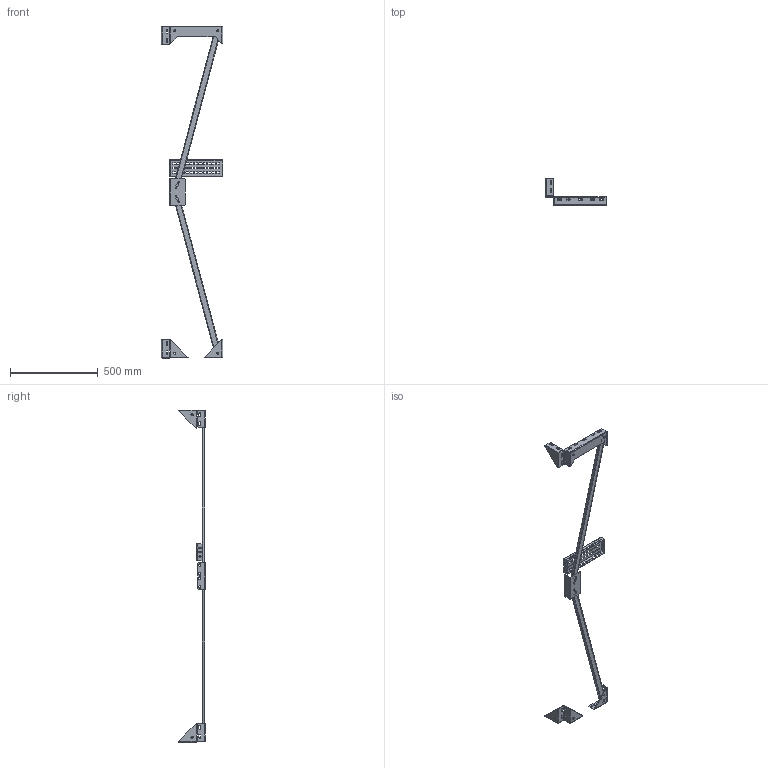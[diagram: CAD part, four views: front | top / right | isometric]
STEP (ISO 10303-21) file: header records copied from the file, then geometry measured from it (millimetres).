
FILE_DESCRIPTION (( 'STEP AP203' ), '1' );
FILE_NAME ('栫濄斁膰斀錼膷2000x400_p.STEP', '2018-07-25T11:26:24', ( '' ), ( '' ), 'SwSTEP 2.0', 'SolidWorks 2018', '' );
FILE_SCHEMA (( 'CONFIG_CONTROL_DESIGN' ));
Length unit declared in the file: millimetre
Products named in the file (2): 栫濄斁膰斀錼膷2000x400_p
Bounding box: 351.5 x 153.5 x 1894 mm (x, y, z)
Surface area: 656370.5 mm2 (no closed solid volume)
Topology: 0 solids, 13 shells, 737 faces, 2150 edges, 1392 vertices
Faces by surface type: plane 441, cylinder 267, bspline 29
Entity records: 27078 total; most frequent: CARTESIAN_POINT 6851, ORIENTED_EDGE 4042, DIRECTION 3975, EDGE_CURVE 2150, VECTOR 1559, LINE 1559, VERTEX_POINT 1392, AXIS2_PLACEMENT_3D 1208
